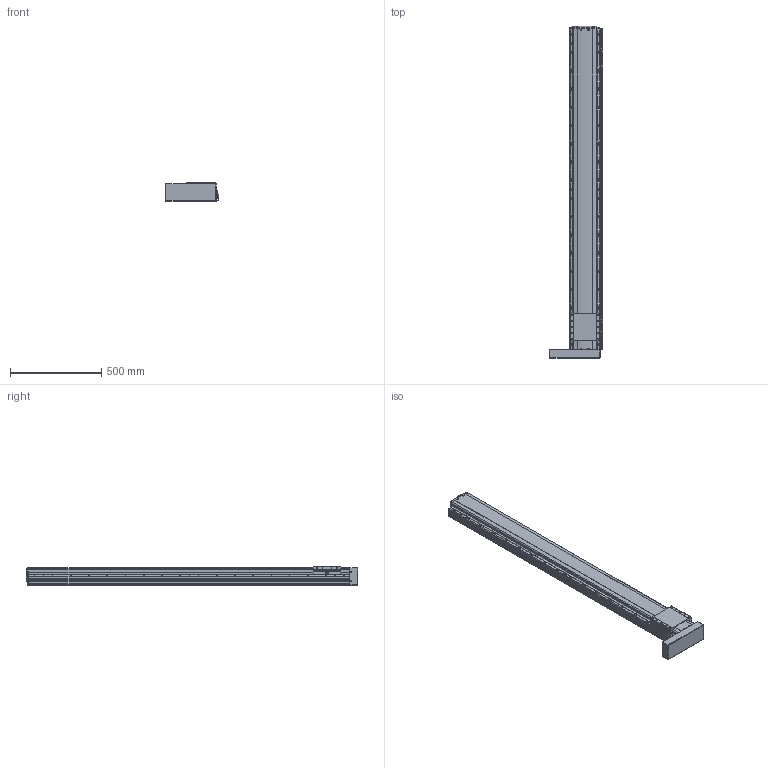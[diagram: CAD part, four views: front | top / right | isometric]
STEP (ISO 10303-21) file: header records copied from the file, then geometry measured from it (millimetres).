
FILE_DESCRIPTION(('STEP AP214'),'1');
FILE_NAME('Z:/Web/3D/PSA165/STP/PSA165-1500 (3D)/PSA165ㅁㅁ-1500PL+3SR.stp','2014-06-24T10:54:11',(' '),(' '),'Spatial InterOp 3D',' ',' ');
FILE_SCHEMA(('automotive_design'));
Length unit declared in the file: millimetre
Products named in the file (41): 스크루 : Round - M4.0 x 12.0; RRCV-PA160; BASE; 스크루 : Round - M4.0 x 10.0; RN15; Screw 20; SLIDE; FRCV; MTPL; 스크루 : Round - M3.0 x 6.0; M3.0 x 6.0; SRL-16x17-360L; SGD-SAN150; EE-SX674; SBK-SX674-352; BHCS M4.0 x 10.0
Bounding box: 294.46 x 1820.8 x 104 mm (x, y, z)
Volume: 25627536.1 mm3; surface area: 1701672.8 mm2
Topology: 41 solids, 41 shells, 2712 faces, 7289 edges, 4665 vertices
Faces by surface type: plane 1483, cylinder 875, cone 249, sphere 64, bspline 25, torus 16
Entity records: 110293 total; most frequent: CARTESIAN_POINT 19293, DIRECTION 14507, ORIENTED_EDGE 14222, EDGE_CURVE 7111, AXIS2_PLACEMENT_3D 4933, VERTEX_POINT 4665, LINE 4641, VECTOR 4641
